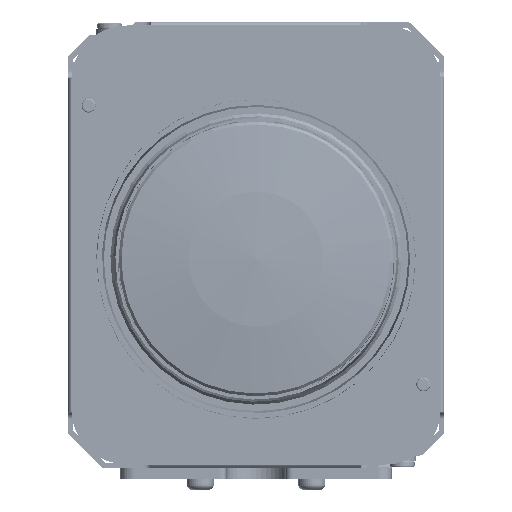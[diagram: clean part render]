
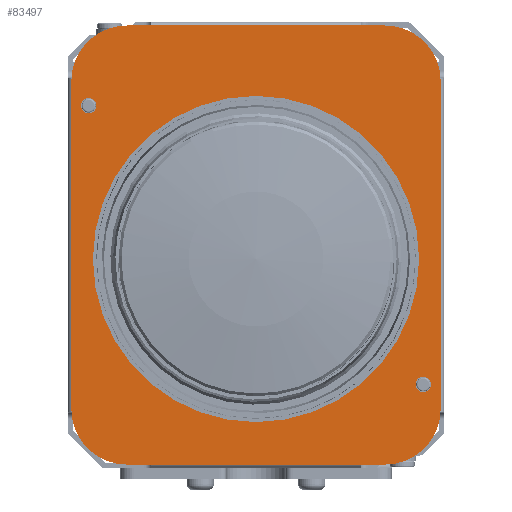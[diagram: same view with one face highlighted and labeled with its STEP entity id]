
A CAD part, left-side view. The second image highlights one B-rep face of the part: STEP entity #83497.
In plain terms, the highlighted planar face has unit normal (-1, 0, 0) as drawn and (0, 0, 1) by its records, which use the part's own axes.
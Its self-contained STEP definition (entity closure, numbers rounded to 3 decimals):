
#83497 = ADVANCED_FACE( '', ( #160180, #160181, #160182, #160183 ), #160184, .T. );
#160180 = FACE_OUTER_BOUND( '', #295685, .T. );
#160181 = FACE_BOUND( '', #295686, .T. );
#160182 = FACE_BOUND( '', #295687, .T. );
#160183 = FACE_BOUND( '', #295688, .T. );
#160184 = PLANE( '', #295689 );
#295685 = EDGE_LOOP( '', ( #474783, #474784, #474785, #474786, #474787, #474788, #474789, #474790 ) );
#295686 = EDGE_LOOP( '', ( #474791 ) );
#295687 = EDGE_LOOP( '', ( #474792 ) );
#295688 = EDGE_LOOP( '', ( #474793 ) );
#295689 = AXIS2_PLACEMENT_3D( '', #474794, #474795, #474796 );
#474783 = ORIENTED_EDGE( '', *, *, #547188, .F. );
#474784 = ORIENTED_EDGE( '', *, *, #523251, .F. );
#474785 = ORIENTED_EDGE( '', *, *, #562924, .F. );
#474786 = ORIENTED_EDGE( '', *, *, #552062, .F. );
#474787 = ORIENTED_EDGE( '', *, *, #497753, .F. );
#474788 = ORIENTED_EDGE( '', *, *, #546836, .F. );
#474789 = ORIENTED_EDGE( '', *, *, #551255, .F. );
#474790 = ORIENTED_EDGE( '', *, *, #522339, .F. );
#474791 = ORIENTED_EDGE( '', *, *, #537433, .F. );
#474792 = ORIENTED_EDGE( '', *, *, #530850, .F. );
#474793 = ORIENTED_EDGE( '', *, *, #536071, .F. );
#474794 = CARTESIAN_POINT( '', ( 0., 0., 57.75 ) );
#474795 = DIRECTION( '', ( 0., 0., 1. ) );
#474796 = DIRECTION( '', ( 1., 0., 0. ) );
#497753 = EDGE_CURVE( '', #567649, #567650, #567651, .T. );
#522339 = EDGE_CURVE( '', #609507, #609510, #609511, .T. );
#523251 = EDGE_CURVE( '', #610917, #610920, #610921, .T. );
#530850 = EDGE_CURVE( '', #622440, #622440, #622441, .T. );
#536071 = EDGE_CURVE( '', #630079, #630079, #630080, .T. );
#537433 = EDGE_CURVE( '', #631971, #631971, #631972, .T. );
#546836 = EDGE_CURVE( '', #644647, #567649, #644650, .T. );
#547188 = EDGE_CURVE( '', #610920, #609507, #645108, .T. );
#551255 = EDGE_CURVE( '', #609510, #644647, #650201, .T. );
#552062 = EDGE_CURVE( '', #567650, #651185, #651186, .T. );
#562924 = EDGE_CURVE( '', #651185, #610917, #663459, .T. );
#567649 = VERTEX_POINT( '', #668734 );
#567650 = VERTEX_POINT( '', #668735 );
#567651 = LINE( '', #668736, #668737 );
#609507 = VERTEX_POINT( '', #735849 );
#609510 = VERTEX_POINT( '', #735853 );
#609511 = CIRCLE( '', #735854, 8. );
#610917 = VERTEX_POINT( '', #737976 );
#610920 = VERTEX_POINT( '', #737980 );
#610921 = CIRCLE( '', #737981, 8. );
#622440 = VERTEX_POINT( '', #756870 );
#622441 = CIRCLE( '', #756871, 1.1 );
#630079 = VERTEX_POINT( '', #769689 );
#630080 = CIRCLE( '', #769690, 23.4 );
#631971 = VERTEX_POINT( '', #773117 );
#631972 = CIRCLE( '', #773118, 1.1 );
#644647 = VERTEX_POINT( '', #793983 );
#644650 = CIRCLE( '', #793987, 8. );
#645108 = LINE( '', #794774, #794775 );
#650201 = LINE( '', #803262, #803263 );
#651185 = VERTEX_POINT( '', #805015 );
#651186 = CIRCLE( '', #805016, 8. );
#663459 = LINE( '', #824637, #824638 );
#668734 = CARTESIAN_POINT( '', ( -26.5, -21.5, 57.75 ) );
#668735 = CARTESIAN_POINT( '', ( -26.5, 25.5, 57.75 ) );
#668736 = CARTESIAN_POINT( '', ( -26.5, -21.5, 57.75 ) );
#668737 = VECTOR( '', #829784, 1000. );
#735849 = CARTESIAN_POINT( '', ( 26.5, -21.5, 57.75 ) );
#735853 = CARTESIAN_POINT( '', ( 18.5, -29.5, 57.75 ) );
#735854 = AXIS2_PLACEMENT_3D( '', #858341, #858342, #858343 );
#737976 = CARTESIAN_POINT( '', ( 18.5, 33.5, 57.75 ) );
#737980 = CARTESIAN_POINT( '', ( 26.5, 25.5, 57.75 ) );
#737981 = AXIS2_PLACEMENT_3D( '', #859391, #859392, #859393 );
#756870 = CARTESIAN_POINT( '', ( -22.9, 22., 57.75 ) );
#756871 = AXIS2_PLACEMENT_3D( '', #867854, #867855, #867856 );
#769689 = CARTESIAN_POINT( '', ( 23.4, 0., 57.75 ) );
#769690 = AXIS2_PLACEMENT_3D( '', #873545, #873546, #873547 );
#773117 = CARTESIAN_POINT( '', ( 25.1, -18., 57.75 ) );
#773118 = AXIS2_PLACEMENT_3D( '', #874926, #874927, #874928 );
#793983 = CARTESIAN_POINT( '', ( -18.5, -29.5, 57.75 ) );
#793987 = AXIS2_PLACEMENT_3D( '', #884631, #884632, #884633 );
#794774 = CARTESIAN_POINT( '', ( 26.5, 25.5, 57.75 ) );
#794775 = VECTOR( '', #884955, 1000. );
#803262 = CARTESIAN_POINT( '', ( 18.5, -29.5, 57.75 ) );
#803263 = VECTOR( '', #888855, 1000. );
#805015 = CARTESIAN_POINT( '', ( -18.5, 33.5, 57.75 ) );
#805016 = AXIS2_PLACEMENT_3D( '', #889586, #889587, #889588 );
#824637 = CARTESIAN_POINT( '', ( -18.5, 33.5, 57.75 ) );
#824638 = VECTOR( '', #898046, 1000. );
#829784 = DIRECTION( '', ( 0., 1., 0. ) );
#858341 = CARTESIAN_POINT( '', ( 18.5, -21.5, 57.75 ) );
#858342 = DIRECTION( '', ( 0., 0., -1. ) );
#858343 = DIRECTION( '', ( 1., 0., 0. ) );
#859391 = CARTESIAN_POINT( '', ( 18.5, 25.5, 57.75 ) );
#859392 = DIRECTION( '', ( 0., 0., -1. ) );
#859393 = DIRECTION( '', ( 0., 1., 0. ) );
#867854 = CARTESIAN_POINT( '', ( -24., 22., 57.75 ) );
#867855 = DIRECTION( '', ( 0., 0., 1. ) );
#867856 = DIRECTION( '', ( 1., 0., 0. ) );
#873545 = CARTESIAN_POINT( '', ( 0., 0., 57.75 ) );
#873546 = DIRECTION( '', ( 0., 0., 1. ) );
#873547 = DIRECTION( '', ( 1., 0., 0. ) );
#874926 = CARTESIAN_POINT( '', ( 24., -18., 57.75 ) );
#874927 = DIRECTION( '', ( 0., 0., 1. ) );
#874928 = DIRECTION( '', ( 1., 0., 0. ) );
#884631 = CARTESIAN_POINT( '', ( -18.5, -21.5, 57.75 ) );
#884632 = DIRECTION( '', ( 0., 0., -1. ) );
#884633 = DIRECTION( '', ( 0., -1., 0. ) );
#884955 = DIRECTION( '', ( 0., -1., 0. ) );
#888855 = DIRECTION( '', ( -1., 0., 0. ) );
#889586 = CARTESIAN_POINT( '', ( -18.5, 25.5, 57.75 ) );
#889587 = DIRECTION( '', ( 0., 0., -1. ) );
#889588 = DIRECTION( '', ( -1., 0., 0. ) );
#898046 = DIRECTION( '', ( 1., 0., 0. ) );
